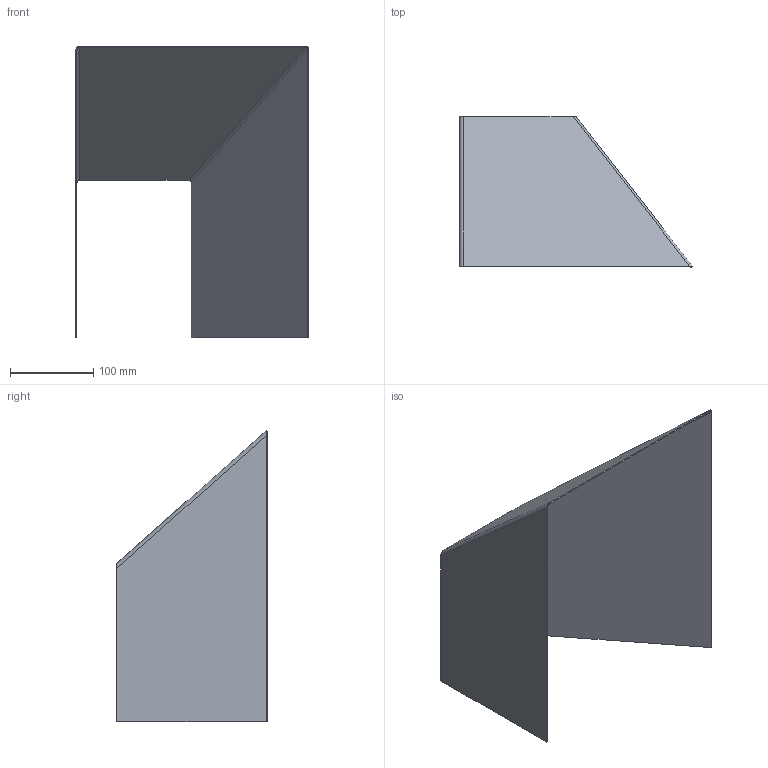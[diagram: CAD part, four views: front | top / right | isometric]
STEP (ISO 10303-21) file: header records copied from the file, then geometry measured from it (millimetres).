
FILE_DESCRIPTION (( 'STEP AP203' ), '1' );
FILE_NAME ('Demi hotte Rep.3.1a.STEP', '2016-02-19T16:21:55', ( '' ), ( '' ), 'SwSTEP 2.0', 'SolidWorks 2014', '' );
FILE_SCHEMA (( 'CONFIG_CONTROL_DESIGN' ));
Length unit declared in the file: millimetre
Products named in the file (1): Demi hotte Rep.3.1a
Bounding box: 280 x 181.14 x 350 mm (x, y, z)
Volume: 239357.1 mm3; surface area: 321988.7 mm2
Topology: 1 solids, 1 shells, 24 faces, 50 edges, 28 vertices
Faces by surface type: plane 14, bspline 6, cylinder 4
Entity records: 823 total; most frequent: CARTESIAN_POINT 307, ORIENTED_EDGE 100, DIRECTION 74, EDGE_CURVE 50, LINE 36, VECTOR 36, VERTEX_POINT 28, FACE_OUTER_BOUND 24
